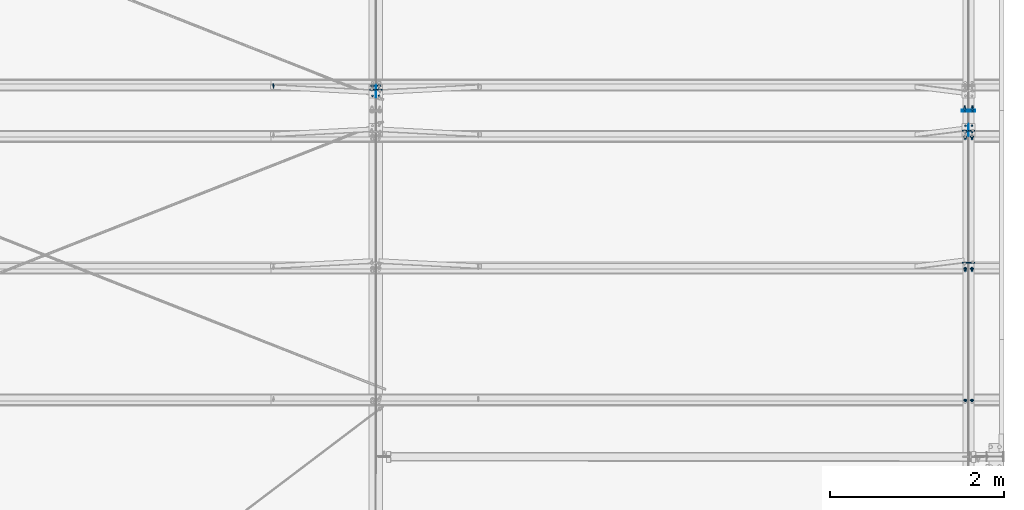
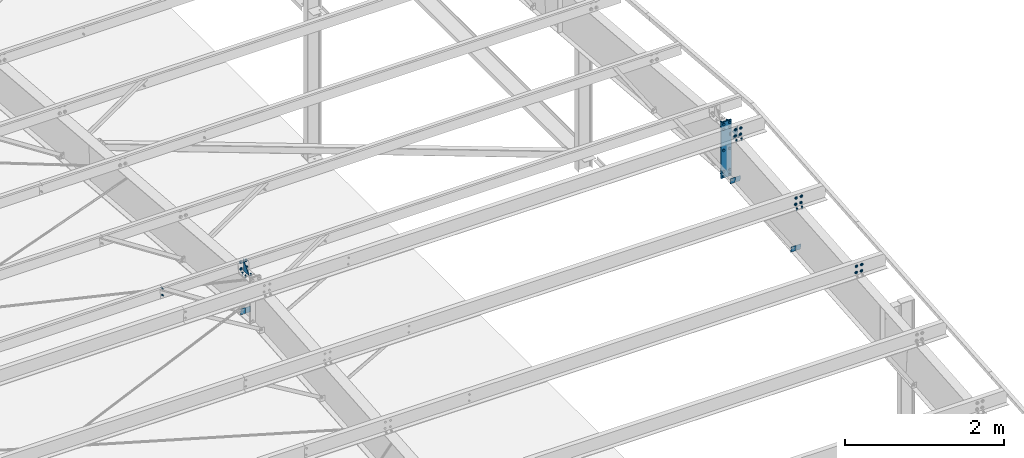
# One storey, part 109 of 185: 16 mechanical fasteners, 10 discrete accessories, 10 elements without a shape of their own.
"""IFC2X3 building model written with IfcOpenShell, lengths in millimetres."""

import ifcopenshell
import ifcopenshell.guid

model = None  # the IFC model being written
_history = None  # IfcOwnerHistory: only IFC2X3 demands one
_inside = {}  # id of a spatial element -> (the spatial element, [elements in it])
_under = {}  # id of a project, library or spatial element -> (it, [spatial elements below it])
_declared = {}  # id of a project -> (the project, [libraries it declares])
_typed = {}  # id of a type object -> (the type object, [elements of that type])
_made_of = {}  # id of a material, layer set ... -> (it, [elements and type objects made of it])


def new_model(schema):
    """Start an empty IFC model of exactly this schema.

    Asked for "IFC4X3", IfcOpenShell would pick the latest addendum, in which some entities
    have other attributes; the version numbers below select the first issue.
    IFC2X3 requires an IfcOwnerHistory on every rooted entity: one is made here for all.
    """
    global model, _history
    if schema == "IFC4X3":
        model = ifcopenshell.file(schema_version=(4, 3, 0, 0))
    else:
        model = ifcopenshell.file(schema=schema)
    _inside.clear()
    _under.clear()
    _declared.clear()
    _typed.clear()
    _made_of.clear()
    _history = None
    if model.schema == "IFC2X3":
        org = make("IfcOrganization", Name="unknown")
        user = make(
            "IfcPersonAndOrganization",
            ThePerson=make("IfcPerson", FamilyName="unknown"),
            TheOrganization=org,
        )
        app = make(
            "IfcApplication",
            ApplicationDeveloper=org,
            Version="unknown",
            ApplicationFullName="unknown",
            ApplicationIdentifier="unknown",
        )
        _history = make(
            "IfcOwnerHistory",
            OwningUser=user,
            OwningApplication=app,
            ChangeAction="ADDED",
            CreationDate=0,
        )
    return model


def make(cls, **values):
    """One entity of the class cls with the attributes given. An attribute that is None is left unset."""
    return model.create_entity(
        cls, **{name: value for name, value in values.items() if value is not None}
    )


def rooted(cls, **values):
    """An entity with a GlobalId (a new one), such as an element, a storey or a relation."""
    return make(cls, GlobalId=ifcopenshell.guid.new(), OwnerHistory=_history, **values)


def si_unit(unit_type, name, prefix=None):
    """IfcSIUnit, for example si_unit("LENGTHUNIT", "METRE", prefix="MILLI")."""
    return make("IfcSIUnit", UnitType=unit_type, Prefix=prefix, Name=name)


def assignment(units):
    """IfcUnitAssignment: the units of a project."""
    return None if units is None else make("IfcUnitAssignment", Units=units)


def point(xyz):
    """IfcCartesianPoint."""
    return None if xyz is None else make("IfcCartesianPoint", Coordinates=xyz)


def direction(xyz):
    """IfcDirection."""
    return None if xyz is None else make("IfcDirection", DirectionRatios=xyz)


def frame(location, z_axis=None, x_axis=None):
    """IfcAxis2Placement3D, a coordinate frame: its origin and axes. An axis left out is left unset."""
    return make(
        "IfcAxis2Placement3D",
        Location=point(location),
        Axis=direction(z_axis),
        RefDirection=direction(x_axis),
    )


def frame_2d(location, x_axis=None):
    """IfcAxis2Placement2D, a coordinate frame in the plane: its origin and x axis."""
    return make(
        "IfcAxis2Placement2D", Location=point(location), RefDirection=direction(x_axis)
    )


def origin_with_axes():
    """The frame at (0, 0, 0) with the z axis (0, 0, 1) and the x axis (1, 0, 0) written out."""
    return frame((0.0, 0.0, 0.0), z_axis=(0.0, 0.0, 1.0), x_axis=(1.0, 0.0, 0.0))


def origin_2d_with_axis():
    """The frame at (0, 0) in the plane with the x axis (1, 0) written out."""
    return frame_2d((0.0, 0.0), x_axis=(1.0, 0.0))


def place(relative_to, where):
    """IfcLocalPlacement: puts the frame where relative to a parent placement (None: the world)."""
    return make(
        "IfcLocalPlacement", PlacementRelTo=relative_to, RelativePlacement=where
    )


def context(
    kind, dimensions, precision=None, world=None, true_north=None, identifier=None
):
    """IfcGeometricRepresentationContext, for example the 3D "Model" context."""
    return make(
        "IfcGeometricRepresentationContext",
        ContextIdentifier=identifier,
        ContextType=kind,
        CoordinateSpaceDimension=dimensions,
        Precision=precision,
        WorldCoordinateSystem=world,
        TrueNorth=true_north,
    )


def subcontext(parent, identifier, kind, view, scale=None):
    """IfcGeometricRepresentationSubContext, for example "Body" below "Model"."""
    return make(
        "IfcGeometricRepresentationSubContext",
        ContextIdentifier=identifier,
        ContextType=kind,
        ParentContext=parent,
        TargetScale=scale,
        TargetView=view,
    )


def project(units=None, contexts=None):
    """IfcProject with its units and contexts."""
    return rooted(
        "IfcProject",
        Name="project",
        RepresentationContexts=contexts,
        UnitsInContext=assignment(units),
    )


def spatial(cls, under=None, at=None, **own):
    """A site, building, storey or space (cls), placed at a placement, below another one or the project."""
    s = rooted(cls, ObjectPlacement=at, **own)
    if under is not None:
        _under.setdefault(under.id(), (under, []))[1].append(s)
    return s


def polyline(points):
    """IfcPolyline through the points."""
    return make("IfcPolyline", Points=[point(p) for p in points])


def profile(cls, at=None, kind="AREA", **sizes):
    """A parametric profile (cls). Its sizes go by their IFC names, for example OverallWidth=200.0."""
    return make(cls, ProfileType=kind, Position=at, **sizes)


def rectangle(**sizes):
    """IfcRectangleProfileDef."""
    return profile("IfcRectangleProfileDef", **sizes)


def circle(**sizes):
    """IfcCircleProfileDef."""
    return profile("IfcCircleProfileDef", **sizes)


def outline(outer, holes=None, kind="AREA"):
    """IfcArbitraryClosedProfileDef: a profile drawn as a closed curve; with holes, ...WithVoids."""
    if holes is None:
        return make("IfcArbitraryClosedProfileDef", ProfileType=kind, OuterCurve=outer)
    return make(
        "IfcArbitraryProfileDefWithVoids",
        ProfileType=kind,
        OuterCurve=outer,
        InnerCurves=holes,
    )


def extrude(swept, where, along, depth):
    """IfcExtrudedAreaSolid: the profile swept, set in the frame where, extruded along a direction by depth."""
    return make(
        "IfcExtrudedAreaSolid",
        SweptArea=swept,
        Position=where,
        ExtrudedDirection=direction(along),
        Depth=depth,
    )


def shape(context_of_items, identifier, shape_type, items):
    """IfcShapeRepresentation: the items that make up one representation, for example the "Body"."""
    return make(
        "IfcShapeRepresentation",
        ContextOfItems=context_of_items,
        RepresentationIdentifier=identifier,
        RepresentationType=shape_type,
        Items=items,
    )


def source(mapping_origin, context_of_items, identifier, shape_type, items):
    """IfcRepresentationMap: a shape defined once, which mapped items show again and again."""
    return make(
        "IfcRepresentationMap",
        MappingOrigin=mapping_origin,
        MappedRepresentation=shape(context_of_items, identifier, shape_type, items),
    )


def transform(
    local_origin,
    x_axis=None,
    y_axis=None,
    z_axis=None,
    scale=None,
    scale2=None,
    scale3=None,
    uniform=True,
):
    """IfcCartesianTransformationOperator3D, or its non-uniform kind. x_axis, y_axis, z_axis: its Axis1, 2, 3."""
    if uniform:
        return make(
            "IfcCartesianTransformationOperator3D",
            Axis1=direction(x_axis),
            Axis2=direction(y_axis),
            LocalOrigin=point(local_origin),
            Scale=scale,
            Axis3=direction(z_axis),
        )
    return make(
        "IfcCartesianTransformationOperator3DnonUniform",
        Axis1=direction(x_axis),
        Axis2=direction(y_axis),
        LocalOrigin=point(local_origin),
        Scale=scale,
        Axis3=direction(z_axis),
        Scale2=scale2,
        Scale3=scale3,
    )


def mapped(mapping_source, mapping_target):
    """IfcMappedItem: shows the shape of a source again, moved by a transform."""
    return make(
        "IfcMappedItem", MappingSource=mapping_source, MappingTarget=mapping_target
    )


def material(Name=None, Category=None):
    """IfcMaterial."""
    return make("IfcMaterial", Name=Name, Category=Category)


def made_of(thing, what):
    """Note that an element or type object is made of a material, layer set ...; save() writes the relation."""
    if what is not None:
        _made_of.setdefault(what.id(), (what, []))[1].append(thing)
    return thing


def type_object(cls, material=None, **own):
    """A type object (cls), such as IfcWallType, which elements share."""
    return made_of(rooted(cls, **own), material)


def element(
    cls,
    number,
    at=None,
    inside=None,
    cuts=None,
    type_object=None,
    material=None,
    context=None,
    identifier="Body",
    shape_type=None,
    held_by="IfcProductDefinitionShape",
    body=None,
    shapes=None,
    **own,
):
    """One element of the class cls, such as IfcWall. Its Tag is "e" and its number.

    at: its placement. inside: the storey or other place that contains it. cuts: it is an
    opening in that element (IfcRelVoidsElement). A single representation is given by context,
    identifier, shape_type and body (its items); several are given by shapes. held_by: the class
    of the entity that holds the representations. save() writes the other relations.
    """
    e = rooted(cls, Tag="e%d" % number, ObjectPlacement=at, **own)
    if body is not None:
        shapes = [shape(context, identifier, shape_type, body)]
    if shapes is not None:
        e.Representation = make(held_by, Representations=shapes)
    if inside is not None:
        _inside.setdefault(inside.id(), (inside, []))[1].append(e)
    if cuts is not None:
        rooted(
            "IfcRelVoidsElement", RelatingBuildingElement=cuts, RelatedOpeningElement=e
        )
    if type_object is not None:
        _typed.setdefault(type_object.id(), (type_object, []))[1].append(e)
    return made_of(e, material)


def aggregate(whole, parts):
    """IfcRelAggregates: a whole, such as a stair, and the parts it consists of."""
    return rooted("IfcRelAggregates", RelatingObject=whole, RelatedObjects=parts)


def save(model, path):
    """Write the relations noted so far, then the file.

    IfcRelAggregates (storeys below a building ...), IfcRelContainedInSpatialStructure (elements
    in a storey), IfcRelDefinesByType, IfcRelAssociatesMaterial and IfcRelDeclares: one each for
    every whole, place, type object, material and project.
    """
    for whole, parts in _under.values():
        aggregate(whole, parts)
    for where, things in _inside.values():
        rooted(
            "IfcRelContainedInSpatialStructure",
            RelatedElements=things,
            RelatingStructure=where,
        )
    for kind, things in _typed.values():
        rooted("IfcRelDefinesByType", RelatedObjects=things, RelatingType=kind)
    for what, things in _made_of.values():
        rooted("IfcRelAssociatesMaterial", RelatedObjects=things, RelatingMaterial=what)
    for by, libraries in _declared.values():
        rooted("IfcRelDeclares", RelatingContext=by, RelatedDefinitions=libraries)
    model.write(path)


model = new_model("IFC2X3")

# Units and contexts
model_context = context("Model", 3, precision=1e-05, world=origin_with_axes())
body_context = subcontext(model_context, "Body", "Model", "MODEL_VIEW")
ifc_project = project(units=[si_unit("LENGTHUNIT", "METRE", prefix="MILLI"), si_unit("AREAUNIT", "SQUARE_METRE"), si_unit("VOLUMEUNIT", "CUBIC_METRE"), si_unit("MASSUNIT", "GRAM", prefix="KILO"), si_unit("TIMEUNIT", "SECOND"), si_unit("PLANEANGLEUNIT", "RADIAN"), si_unit("SOLIDANGLEUNIT", "STERADIAN"), si_unit("THERMODYNAMICTEMPERATUREUNIT", "DEGREE_CELSIUS"), si_unit("LUMINOUSINTENSITYUNIT", "LUMEN")], contexts=[model_context])

# Site, building, storey
site_placement = place(None, origin_with_axes())
site = spatial("IfcSite", under=ifc_project, at=site_placement, Name="Undefined", CompositionType="ELEMENT")
building_placement = place(site_placement, origin_with_axes())
building = spatial("IfcBuilding", under=site, at=building_placement, Name="Undefined", CompositionType="ELEMENT")
storey_placement = place(building_placement, origin_with_axes())
storey = spatial("IfcBuildingStorey", under=building, at=storey_placement, Name="Undefined", CompositionType="ELEMENT", Elevation=0.0)

# Assembly, mechanical fasteners
assembly_1_placement = place(storey_placement, origin_with_axes())
assembly_1 = element("IfcElementAssembly", 1, at=assembly_1_placement, inside=storey, Name="Steel Assembly", AssemblyPlace="NOTDEFINED", PredefinedType="RIGID_FRAME")
ifc_material_1 = material(Name="Undefined")
discrete_accessory_type_1 = type_object("IfcDiscreteAccessoryType", Name="Bolt assembly")
shared_shape_1 = source(origin_with_axes(), body_context, "Body", "SweptSolid", [
    extrude(circle(Radius=7.14374971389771, at=origin_2d_with_axis()), frame((0.0, -1.59000001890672, 0.0), z_axis=(0.0, 1.0, 0.0), x_axis=(1.0, 0.0, 0.0)), (0.0, 0.0, 1.0), 3.3),
    extrude(circle(Radius=13.4937496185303, at=origin_2d_with_axis()), frame((0.0, -5.5587500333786, 0.0), z_axis=(0.0, 1.0, 0.0), x_axis=(1.0, 0.0, 0.0)), (0.0, 0.0, 1.0), 4.0),
    extrude(circle(Radius=22.2250003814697, at=origin_2d_with_axis()), frame((0.0, 1.5900000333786, 0.0), z_axis=(0.0, 1.0, 0.0), x_axis=(1.0, 0.0, 0.0)), (0.0, 0.0, 1.0), 7.9),
    extrude(outline(polyline([(12.8316099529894, 0.0), (6.4158049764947, 11.1125001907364), (-6.4158049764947, 11.1125001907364), (-12.8316099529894, 0.0), (-6.4158049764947, -11.1125001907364), (6.4158049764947, -11.1125001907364), (12.8316099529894, 0.0)])), frame((0.0, 9.5275000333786, 0.0), z_axis=(0.0, 1.0, 0.0), x_axis=(1.0, 0.0, 0.0)), (0.0, 0.0, 1.0), 12.3),
])
mechanical_fastener_1_placement = place(assembly_1_placement, frame((44513.5, 12665.0005165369, 7100.44062814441), z_axis=(-1.0, 0.0, 0.0), x_axis=(0.0, 0.0830454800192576, -0.996545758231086)))
mechanical_fastener_1 = element("IfcMechanicalFastener", 2, at=mechanical_fastener_1_placement, type_object=discrete_accessory_type_1, material=ifc_material_1, Name="Bolt assembly", NominalDiameter=12.6999998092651, NominalLength=38.0999984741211, context=body_context, shape_type="MappedRepresentation", body=[
    mapped(shared_shape_1, transform((0.0, 0.0, 0.0))),
    mapped(shared_shape_1, transform((101.599998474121, 0.0, 0.0))),
])
mechanical_fastener_2_placement = place(assembly_1_placement, frame((44589.7, 12665.0005165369, 7100.44062814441), z_axis=(-1.0, 0.0, 0.0), x_axis=(0.0, 0.0830454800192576, -0.996545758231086)))
mechanical_fastener_2 = element("IfcMechanicalFastener", 3, at=mechanical_fastener_2_placement, type_object=discrete_accessory_type_1, material=ifc_material_1, Name="Bolt assembly", NominalDiameter=12.6999998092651, NominalLength=38.0999984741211, context=body_context, shape_type="MappedRepresentation", body=[
    mapped(shared_shape_1, transform((0.0, 0.0, 0.0))),
    mapped(shared_shape_1, transform((101.599998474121, 0.0, 0.0))),
])
aggregate(assembly_1, [mechanical_fastener_1, mechanical_fastener_2])

assembly_2_placement = place(storey_placement, origin_with_axes())
assembly_2 = element("IfcElementAssembly", 4, at=assembly_2_placement, inside=storey, Name="Steel Assembly", AssemblyPlace="NOTDEFINED", PredefinedType="RIGID_FRAME")
mechanical_fastener_3_placement = place(assembly_2_placement, frame((44513.5, 14183.73625208, 7227.00193969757), z_axis=(-1.0, 0.0, 0.0), x_axis=(0.0, 0.0830454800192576, -0.996545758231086)))
mechanical_fastener_3 = element("IfcMechanicalFastener", 5, at=mechanical_fastener_3_placement, type_object=discrete_accessory_type_1, material=ifc_material_1, Name="Bolt assembly", NominalDiameter=12.6999998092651, NominalLength=38.0999984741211, context=body_context, shape_type="MappedRepresentation", body=[
    mapped(shared_shape_1, transform((0.0, 0.0, 0.0))),
    mapped(shared_shape_1, transform((101.599998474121, 0.0, 0.0))),
])
mechanical_fastener_4_placement = place(assembly_2_placement, frame((44589.7, 14183.73625208, 7227.00193969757), z_axis=(-1.0, 0.0, 0.0), x_axis=(0.0, 0.0830454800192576, -0.996545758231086)))
mechanical_fastener_4 = element("IfcMechanicalFastener", 6, at=mechanical_fastener_4_placement, type_object=discrete_accessory_type_1, material=ifc_material_1, Name="Bolt assembly", NominalDiameter=12.6999998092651, NominalLength=38.0999984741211, context=body_context, shape_type="MappedRepresentation", body=[
    mapped(shared_shape_1, transform((0.0, 0.0, 0.0))),
    mapped(shared_shape_1, transform((101.599998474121, 0.0, 0.0))),
])

assembly_3_placement = place(storey_placement, origin_with_axes())
assembly_3 = element("IfcElementAssembly", 7, at=assembly_3_placement, inside=storey, Name="Steel Assembly", AssemblyPlace="NOTDEFINED", PredefinedType="RIGID_FRAME")
mechanical_fastener_5_placement = place(assembly_3_placement, frame((44513.5, 15702.4719876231, 7353.56325125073), z_axis=(-1.0, 0.0, 0.0), x_axis=(0.0, 0.0830454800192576, -0.996545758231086)))
mechanical_fastener_5 = element("IfcMechanicalFastener", 8, at=mechanical_fastener_5_placement, type_object=discrete_accessory_type_1, material=ifc_material_1, Name="Bolt assembly", NominalDiameter=12.6999998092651, NominalLength=38.0999984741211, context=body_context, shape_type="MappedRepresentation", body=[
    mapped(shared_shape_1, transform((0.0, 0.0, 0.0))),
    mapped(shared_shape_1, transform((101.599998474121, 0.0, 0.0))),
])
mechanical_fastener_6_placement = place(assembly_3_placement, frame((44589.7, 15702.4719876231, 7353.56325125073), z_axis=(-1.0, 0.0, 0.0), x_axis=(0.0, 0.0830454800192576, -0.996545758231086)))
mechanical_fastener_6 = element("IfcMechanicalFastener", 9, at=mechanical_fastener_6_placement, type_object=discrete_accessory_type_1, material=ifc_material_1, Name="Bolt assembly", NominalDiameter=12.6999998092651, NominalLength=38.0999984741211, context=body_context, shape_type="MappedRepresentation", body=[
    mapped(shared_shape_1, transform((0.0, 0.0, 0.0))),
    mapped(shared_shape_1, transform((101.599998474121, 0.0, 0.0))),
])

# Assembly, mechanical fastener
assembly_4_placement = place(storey_placement, origin_with_axes())
assembly_4 = element("IfcElementAssembly", 10, at=assembly_4_placement, inside=storey, Name="Steel Assembly", AssemblyPlace="NOTDEFINED", PredefinedType="RIGID_FRAME")
mechanical_fastener_7_placement = place(assembly_4_placement, frame((37680.9, 16301.5280123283, 7353.56325126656), z_axis=(-1.0, 0.0, 0.0), x_axis=(0.0, -0.0830454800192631, -0.996545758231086)))
mechanical_fastener_7 = element("IfcMechanicalFastener", 11, at=mechanical_fastener_7_placement, type_object=discrete_accessory_type_1, material=ifc_material_1, Name="Bolt assembly", NominalDiameter=12.6999998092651, NominalLength=38.0999984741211, context=body_context, shape_type="MappedRepresentation", body=[
    mapped(shared_shape_1, transform((0.0, 0.0, 0.0))),
    mapped(shared_shape_1, transform((101.599998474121, 0.0, 0.0))),
])
aggregate(assembly_4, [mechanical_fastener_7])

assembly_5_placement = place(storey_placement, origin_with_axes())
assembly_5 = element("IfcElementAssembly", 12, at=assembly_5_placement, inside=storey, Name="Steel Assembly", AssemblyPlace="NOTDEFINED", PredefinedType="RIGID_FRAME")
mechanical_fastener_8_placement = place(assembly_5_placement, frame((37757.1, 16301.5280123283, 7353.56325126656), z_axis=(-1.0, 0.0, 0.0), x_axis=(0.0, -0.0830454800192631, -0.996545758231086)))
mechanical_fastener_8 = element("IfcMechanicalFastener", 13, at=mechanical_fastener_8_placement, type_object=discrete_accessory_type_1, material=ifc_material_1, Name="Bolt assembly", NominalDiameter=12.6999998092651, NominalLength=38.0999984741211, context=body_context, shape_type="MappedRepresentation", body=[
    mapped(shared_shape_1, transform((0.0, 0.0, 0.0))),
    mapped(shared_shape_1, transform((101.599998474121, 0.0, 0.0))),
])

# Assembly, discrete accessory
assembly_6_placement = place(storey_placement, origin_with_axes())
assembly_6 = element("IfcElementAssembly", 14, at=assembly_6_placement, inside=storey, Name="Steel Assembly", AssemblyPlace="NOTDEFINED", PredefinedType="RIGID_FRAME")
ifc_material_2 = material(Name="STEEL/55")
discrete_accessory_type_2 = type_object("IfcDiscreteAccessoryType", Name="PLATE")
discrete_accessory_1_placement = place(assembly_6_placement, frame((44551.6, 15853.8182223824, 7219.61919679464), z_axis=(-1.0, 0.0, 0.0), x_axis=(0.0, -0.996545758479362, -0.0830454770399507)))
discrete_accessory_1 = element("IfcDiscreteAccessory", 15, at=discrete_accessory_1_placement, type_object=discrete_accessory_type_2, material=ifc_material_2, Name="PLATE", ObjectType="FL1/4\"X5 1/4\"", context=body_context, shape_type="SweptSolid", body=[
    extrude(outline(polyline([(0.0, 0.0), (133.350006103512, 3.70164343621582e-10), (133.350006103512, 190.500000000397), (0.0, 0.0)])), frame((0.0, -9.09494701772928e-13, -3.2), z_axis=(0.0, 0.0, 1.0), x_axis=(1.0, 0.0, 0.0)), (0.0, 0.0, 1.0), 6.4),
])

assembly_7_placement = place(storey_placement, origin_with_axes())
assembly_7 = element("IfcElementAssembly", 16, at=assembly_7_placement, inside=storey, Name="Steel Assembly", AssemblyPlace="NOTDEFINED", PredefinedType="RIGID_FRAME")
discrete_accessory_2_placement = place(assembly_7_placement, frame((37719.0, 16150.1817775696, 7219.6191968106), z_axis=(1.0, 0.0, 0.0), x_axis=(0.0, 0.996545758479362, -0.0830454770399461)))
discrete_accessory_2 = element("IfcDiscreteAccessory", 17, at=discrete_accessory_2_placement, type_object=discrete_accessory_type_2, material=ifc_material_2, Name="PLATE", ObjectType="FL1/4\"X5 1/4\"", context=body_context, shape_type="SweptSolid", body=[
    extrude(outline(polyline([(0.0, 0.0), (133.350006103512, 3.70164343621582e-10), (133.350006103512, 190.500000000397), (0.0, 0.0)])), frame((0.0, -9.09494701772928e-13, -3.2), z_axis=(0.0, 0.0, 1.0), x_axis=(1.0, 0.0, 0.0)), (0.0, 0.0, 1.0), 6.4),
])

# Assembly, discrete accessories
assembly_8_placement = place(storey_placement, origin_with_axes())
assembly_8 = element("IfcElementAssembly", 18, at=assembly_8_placement, inside=storey, Name="Steel Assembly", AssemblyPlace="NOTDEFINED", PredefinedType="RIGID_FRAME")
discrete_accessory_type_3 = type_object("IfcDiscreteAccessoryType", Name="FLANGE BRACE FLIP")
discrete_accessory_3_placement = place(assembly_8_placement, frame((44549.89185, 15769.4557659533, 6529.19086765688), z_axis=(0.0, 0.0830454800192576, -0.996545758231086), x_axis=(-1.0, 0.0, 0.0)))
discrete_accessory_3 = element("IfcDiscreteAccessory", 19, at=discrete_accessory_3_placement, type_object=discrete_accessory_type_3, material=ifc_material_2, Name="FLANGE BRACE FLIP", ObjectType="PL1/8\"X2 3/4\"", context=body_context, shape_type="SweptSolid", body=[
    extrude(rectangle(XDim=3.416, YDim=85.725, at=origin_2d_with_axis()), frame((69.8499999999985, 0.0, 0.0), z_axis=(-1.0, 0.0, 0.0), x_axis=(0.0, -1.0, 0.0)), (0.0, 0.0, 1.0), 69.8),
])
discrete_accessory_4_placement = place(assembly_8_placement, frame((44553.30815, 15769.4557659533, 6529.19086765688), z_axis=(0.0, 0.0830454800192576, -0.996545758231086), x_axis=(1.0, 0.0, 0.0)))
discrete_accessory_4 = element("IfcDiscreteAccessory", 20, at=discrete_accessory_4_placement, type_object=discrete_accessory_type_3, material=ifc_material_2, Name="FLANGE BRACE FLIP", ObjectType="PL1/8\"X2 3/4\"", context=body_context, shape_type="SweptSolid", body=[
    extrude(rectangle(XDim=3.416, YDim=85.725, at=origin_2d_with_axis()), frame((69.8499999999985, 0.0, 0.0), z_axis=(-1.0, 0.0, 0.0), x_axis=(0.0, -1.0, 0.0)), (0.0, 0.0, 1.0), 69.9),
])
discrete_accessory_5_placement = place(assembly_8_placement, frame((44549.89185, 14250.7200303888, 6402.62955636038), z_axis=(0.0, 0.0830454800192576, -0.996545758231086), x_axis=(-1.0, 0.0, 0.0)))
discrete_accessory_5 = element("IfcDiscreteAccessory", 21, at=discrete_accessory_5_placement, type_object=discrete_accessory_type_3, material=ifc_material_2, Name="FLANGE BRACE FLIP", ObjectType="PL1/8\"X2 3/4\"", context=body_context, shape_type="SweptSolid", body=[
    extrude(rectangle(XDim=3.416, YDim=85.725, at=origin_2d_with_axis()), frame((69.8499999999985, 0.0, 0.0), z_axis=(-1.0, 0.0, 0.0), x_axis=(0.0, -1.0, 0.0)), (0.0, 0.0, 1.0), 69.8),
])
discrete_accessory_6_placement = place(assembly_8_placement, frame((44553.30815, 14250.7200303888, 6402.62955636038), z_axis=(0.0, 0.0830454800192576, -0.996545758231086), x_axis=(1.0, 0.0, 0.0)))
discrete_accessory_6 = element("IfcDiscreteAccessory", 22, at=discrete_accessory_6_placement, type_object=discrete_accessory_type_3, material=ifc_material_2, Name="FLANGE BRACE FLIP", ObjectType="PL1/8\"X2 3/4\"", context=body_context, shape_type="SweptSolid", body=[
    extrude(rectangle(XDim=3.416, YDim=85.725, at=origin_2d_with_axis()), frame((69.8499999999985, 0.0, 0.0), z_axis=(-1.0, 0.0, 0.0), x_axis=(0.0, -1.0, 0.0)), (0.0, 0.0, 1.0), 69.8),
])

assembly_9_placement = place(storey_placement, origin_with_axes())
assembly_9 = element("IfcElementAssembly", 23, at=assembly_9_placement, inside=storey, Name="Steel Assembly", AssemblyPlace="NOTDEFINED", PredefinedType="RIGID_FRAME")
discrete_accessory_7_placement = place(assembly_9_placement, frame((37717.29185, 16242.8487656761, 6628.84524779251), z_axis=(0.0, 0.0830454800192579, 0.996545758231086), x_axis=(-1.0, 0.0, 0.0)))
discrete_accessory_7 = element("IfcDiscreteAccessory", 24, at=discrete_accessory_7_placement, type_object=discrete_accessory_type_3, material=ifc_material_2, Name="FLANGE BRACE FLIP", ObjectType="PL1/8\"X2 3/4\"", context=body_context, shape_type="SweptSolid", body=[
    extrude(rectangle(XDim=3.416, YDim=85.725, at=origin_2d_with_axis()), frame((69.8499999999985, 0.0, 0.0), z_axis=(-1.0, 0.0, 0.0), x_axis=(0.0, -1.0, 0.0)), (0.0, 0.0, 1.0), 69.8),
])
discrete_accessory_8_placement = place(assembly_9_placement, frame((37720.70815, 16242.8487656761, 6628.84524779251), z_axis=(0.0, 0.0830454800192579, 0.996545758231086), x_axis=(1.0, 0.0, 0.0)))
discrete_accessory_8 = element("IfcDiscreteAccessory", 25, at=discrete_accessory_8_placement, type_object=discrete_accessory_type_3, material=ifc_material_2, Name="FLANGE BRACE FLIP", ObjectType="PL1/8\"X2 3/4\"", context=body_context, shape_type="SweptSolid", body=[
    extrude(rectangle(XDim=3.416, YDim=85.725, at=origin_2d_with_axis()), frame((69.8499999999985, 0.0, 0.0), z_axis=(-1.0, 0.0, 0.0), x_axis=(0.0, -1.0, 0.0)), (0.0, 0.0, 1.0), 69.8),
])
aggregate(assembly_9, [discrete_accessory_7, discrete_accessory_8])

# Mechanical fastener
shared_shape_2 = source(origin_with_axes(), body_context, "Body", "SweptSolid", [
    extrude(circle(Radius=7.14374971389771, at=origin_2d_with_axis()), frame((0.0, -1.69000003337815, 0.0), z_axis=(0.0, 1.0, 0.0), x_axis=(1.0, 0.0, 0.0)), (0.0, 0.0, 1.0), 3.3),
    extrude(circle(Radius=7.14374971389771, at=origin_2d_with_axis()), frame((0.0, -1.4900000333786, 0.0), z_axis=(0.0, 1.0, 0.0), x_axis=(1.0, 0.0, 0.0)), (0.0, 0.0, 1.0), 3.2),
    extrude(outline(polyline([(10.9985221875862, 0.0), (5.4992610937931, 9.52499961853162), (-5.4992610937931, 9.52499961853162), (-10.9985221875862, 0.0), (-5.4992610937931, -9.52499961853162), (5.4992610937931, -9.52499961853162), (10.9985221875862, 0.0)])), frame((0.0, -11.1149996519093, 0.0), z_axis=(0.0, 1.0, 0.0), x_axis=(1.0, 0.0, 0.0)), (0.0, 0.0, 1.0), 9.5),
    extrude(circle(Radius=6.34999990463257, at=origin_2d_with_axis()), frame((0.0, -1.59000001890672, 0.0), z_axis=(0.0, 1.0, 0.0), x_axis=(1.0, 0.0, 0.0)), (0.0, 0.0, 1.0), 38.1),
    extrude(outline(polyline([(12.8316099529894, 0.0), (6.4158049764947, 11.1125001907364), (-6.4158049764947, 11.1125001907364), (-12.8316099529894, 0.0), (-6.4158049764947, -11.1125001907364), (6.4158049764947, -11.1125001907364), (12.8316099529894, 0.0)])), frame((0.0, 1.5900000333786, 0.0), z_axis=(0.0, 1.0, 0.0), x_axis=(1.0, 0.0, 0.0)), (0.0, 0.0, 1.0), 12.3),
])
mechanical_fastener_9_placement = place(assembly_5_placement, frame((36537.9, 16301.5280123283, 7353.56325126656), z_axis=(-1.0, 0.0, 0.0), x_axis=(0.0, -0.0830454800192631, -0.996545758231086)))
mechanical_fastener_9 = element("IfcMechanicalFastener", 26, at=mechanical_fastener_9_placement, type_object=discrete_accessory_type_1, material=ifc_material_1, Name="Bolt assembly", NominalDiameter=12.6999998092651, NominalLength=38.0999984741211, context=body_context, shape_type="MappedRepresentation", body=[
    mapped(shared_shape_2, transform((0.0, 0.0, 0.0))),
    mapped(shared_shape_2, transform((101.599998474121, 0.0, 0.0))),
])

aggregate(assembly_5, [mechanical_fastener_8, mechanical_fastener_9])

shared_shape_3 = source(origin_with_axes(), body_context, "Body", "SweptSolid", [
    extrude(circle(Radius=7.14374971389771, at=origin_2d_with_axis()), frame((0.0, -0.0238014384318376, 0.0), z_axis=(0.0, 1.0, 0.0), x_axis=(1.0, 0.0, 0.0)), (0.0, 0.0, 1.0), 8.0),
    extrude(circle(Radius=7.14374971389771, at=origin_2d_with_axis()), frame((0.0, -6.24999999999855, 0.0), z_axis=(0.0, 1.0, 0.0), x_axis=(1.0, 0.0, 0.0)), (0.0, 0.0, 1.0), 6.4),
    extrude(outline(polyline([(10.9985221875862, 0.0), (5.4992610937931, 9.52499961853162), (-5.4992610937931, 9.52499961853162), (-10.9985221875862, 0.0), (-5.4992610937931, -9.52499961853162), (5.4992610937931, -9.52499961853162), (10.9985221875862, 0.0)])), frame((0.0, -15.8750000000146, 0.0), z_axis=(0.0, 1.0, 0.0), x_axis=(1.0, 0.0, 0.0)), (0.0, 0.0, 1.0), 9.5),
    extrude(circle(Radius=6.34999990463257, at=origin_2d_with_axis()), frame((0.0, -6.34999953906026, 0.0), z_axis=(0.0, 1.0, 0.0), x_axis=(1.0, 0.0, 0.0)), (0.0, 0.0, 1.0), 38.1),
    extrude(outline(polyline([(12.8316099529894, 0.0), (6.4158049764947, 11.1125001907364), (-6.4158049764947, 11.1125001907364), (-12.8316099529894, 0.0), (-6.4158049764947, -11.1125001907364), (6.4158049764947, -11.1125001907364), (12.8316099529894, 0.0)])), frame((0.0, 7.95019856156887, 0.0), z_axis=(0.0, 1.0, 0.0), x_axis=(1.0, 0.0, 0.0)), (0.0, 0.0, 1.0), 12.3),
])
mechanical_fastener_10_placement = place(assembly_7_placement, frame((37719.0, 16250.9034878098, 7204.85371049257), z_axis=(1.0, 0.0, 0.0), x_axis=(0.0, -0.996545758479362, 0.0830454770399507)))
mechanical_fastener_10 = element("IfcMechanicalFastener", 27, at=mechanical_fastener_10_placement, type_object=discrete_accessory_type_1, material=ifc_material_1, Name="Bolt assembly", NominalDiameter=12.6999998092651, NominalLength=38.0999984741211, context=body_context, shape_type="MappedRepresentation", body=[
    mapped(shared_shape_3, transform((0.0, 0.0, -38.0999984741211))),
    mapped(shared_shape_3, transform((76.1999969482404, -1.38243194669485e-10, -38.0999984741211))),
    mapped(shared_shape_3, transform((0.0, 0.0, 38.0999984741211))),
    mapped(shared_shape_3, transform((76.1999969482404, -1.38243194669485e-10, 38.0999984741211))),
])

aggregate(assembly_7, [mechanical_fastener_10, discrete_accessory_2])

shared_shape_4 = source(origin_with_axes(), body_context, "Body", "SweptSolid", [
    extrude(circle(Radius=10.3187494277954, at=origin_2d_with_axis()), frame((0.0, -0.1, 0.0), z_axis=(0.0, 1.0, 0.0), x_axis=(1.0, 0.0, 0.0)), (0.0, 0.0, 1.0), 9.6),
    extrude(circle(Radius=10.3187494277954, at=origin_2d_with_axis()), frame((0.0, -9.42500000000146, 0.0), z_axis=(0.0, 1.0, 0.0), x_axis=(1.0, 0.0, 0.0)), (0.0, 0.0, 1.0), 9.5),
    extrude(outline(polyline([(18.3308710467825, 0.0), (9.16543552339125, 15.8750000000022), (-9.16543552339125, 15.8750000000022), (-18.3308710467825, 0.0), (-9.16543552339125, -15.8750000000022), (9.16543552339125, -15.8750000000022), (18.3308710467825, 0.0)])), frame((0.0, -21.4312500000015, 0.0), z_axis=(0.0, 1.0, 0.0), x_axis=(1.0, 0.0, 0.0)), (0.0, 0.0, 1.0), 11.9),
    extrude(circle(Radius=9.52499961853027, at=origin_2d_with_axis()), frame((0.0, -9.52499961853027, 0.0), z_axis=(0.0, 1.0, 0.0), x_axis=(1.0, 0.0, 0.0)), (0.0, 0.0, 1.0), 69.8),
    extrude(circle(Radius=22.2250003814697, at=origin_2d_with_axis()), frame((0.0, 9.52499999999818, 0.0), z_axis=(0.0, 1.0, 0.0), x_axis=(1.0, 0.0, 0.0)), (0.0, 0.0, 1.0), 7.9),
    extrude(outline(polyline([(18.3308710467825, 0.0), (9.16543552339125, 15.8750000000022), (-9.16543552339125, 15.8750000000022), (-18.3308710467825, 0.0), (-9.16543552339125, -15.8750000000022), (9.16543552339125, -15.8750000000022), (18.3308710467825, 0.0)])), frame((0.0, 17.4624999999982, 0.0), z_axis=(0.0, 1.0, 0.0), x_axis=(1.0, 0.0, 0.0)), (0.0, 0.0, 1.0), 19.0),
])
mechanical_fastener_11_placement = place(assembly_8_placement, frame((44551.6, 16001.9999999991, 6862.03615600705), z_axis=(1.0, 0.0, 0.0), x_axis=(0.0, 0.0, -1.0)))
mechanical_fastener_11 = element("IfcMechanicalFastener", 28, at=mechanical_fastener_11_placement, type_object=discrete_accessory_type_1, material=ifc_material_1, Name="Bolt assembly", NominalDiameter=19.0499992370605, NominalLength=69.8499984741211, context=body_context, shape_type="MappedRepresentation", body=[
    mapped(shared_shape_4, transform((0.0, 0.0, -44.4500007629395))),
    mapped(shared_shape_4, transform((0.0, 0.0, 44.4500007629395))),
])

mechanical_fastener_12_placement = place(assembly_8_placement, frame((44551.6, 16001.9999999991, 6463.57365598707), z_axis=(-1.0, 0.0, 0.0), x_axis=(0.0, 0.0, 1.0)))
mechanical_fastener_12 = element("IfcMechanicalFastener", 29, at=mechanical_fastener_12_placement, type_object=discrete_accessory_type_1, material=ifc_material_1, Name="Bolt assembly", NominalDiameter=19.0499992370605, NominalLength=69.8499984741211, context=body_context, shape_type="MappedRepresentation", body=[
    mapped(shared_shape_4, transform((0.0, 0.0, -44.4500007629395))),
    mapped(shared_shape_4, transform((73.0250015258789, 0.0, -44.4500007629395))),
    mapped(shared_shape_4, transform((0.0, 0.0, 44.4500007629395))),
    mapped(shared_shape_4, transform((73.0250015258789, 0.0, 44.4500007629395))),
])

mechanical_fastener_13_placement = place(assembly_8_placement, frame((44551.6, 16001.9999999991, 7260.49865600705), z_axis=(1.0, 0.0, 0.0), x_axis=(0.0, 0.0, -1.0)))
mechanical_fastener_13 = element("IfcMechanicalFastener", 30, at=mechanical_fastener_13_placement, type_object=discrete_accessory_type_1, material=ifc_material_1, Name="Bolt assembly", NominalDiameter=19.0499992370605, NominalLength=69.8499984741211, context=body_context, shape_type="MappedRepresentation", body=[
    mapped(shared_shape_4, transform((0.0, 0.0, -44.4500007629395))),
    mapped(shared_shape_4, transform((73.0250015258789, 0.0, -44.4500007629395))),
    mapped(shared_shape_4, transform((0.0, 0.0, 44.4500007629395))),
    mapped(shared_shape_4, transform((73.0250015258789, 0.0, 44.4500007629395))),
])

shared_shape_5 = source(origin_with_axes(), body_context, "Body", "SweptSolid", [
    extrude(circle(Radius=7.14374971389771, at=origin_2d_with_axis()), frame((0.0, -0.1, 0.0), z_axis=(0.0, 1.0, 0.0), x_axis=(1.0, 0.0, 0.0)), (0.0, 0.0, 1.0), 6.5),
    extrude(circle(Radius=7.14374971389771, at=origin_2d_with_axis()), frame((0.0, -6.24999999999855, 0.0), z_axis=(0.0, 1.0, 0.0), x_axis=(1.0, 0.0, 0.0)), (0.0, 0.0, 1.0), 6.4),
    extrude(outline(polyline([(10.9985221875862, 0.0), (5.4992610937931, 9.52499961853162), (-5.4992610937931, 9.52499961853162), (-10.9985221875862, 0.0), (-5.4992610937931, -9.52499961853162), (5.4992610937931, -9.52499961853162), (10.9985221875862, 0.0)])), frame((0.0, -15.8750000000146, 0.0), z_axis=(0.0, 1.0, 0.0), x_axis=(1.0, 0.0, 0.0)), (0.0, 0.0, 1.0), 9.5),
    extrude(circle(Radius=6.34999990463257, at=origin_2d_with_axis()), frame((0.0, -6.34999953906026, 0.0), z_axis=(0.0, 1.0, 0.0), x_axis=(1.0, 0.0, 0.0)), (0.0, 0.0, 1.0), 38.1),
    extrude(outline(polyline([(12.8316099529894, 0.0), (6.4158049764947, 11.1125001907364), (-6.4158049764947, 11.1125001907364), (-12.8316099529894, 0.0), (-6.4158049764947, -11.1125001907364), (6.4158049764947, -11.1125001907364), (12.8316099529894, 0.0)])), frame((0.0, 6.35000000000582, 0.0), z_axis=(0.0, 1.0, 0.0), x_axis=(1.0, 0.0, 0.0)), (0.0, 0.0, 1.0), 12.3),
])
mechanical_fastener_14_placement = place(assembly_6_placement, frame((44551.6, 15753.0965121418, 7204.85371047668), z_axis=(-1.0, 0.0, 0.0), x_axis=(0.0, 0.996545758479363, 0.0830454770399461)))
mechanical_fastener_14 = element("IfcMechanicalFastener", 31, at=mechanical_fastener_14_placement, type_object=discrete_accessory_type_1, material=ifc_material_1, Name="Bolt assembly", NominalDiameter=12.6999998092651, NominalLength=38.0999984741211, context=body_context, shape_type="MappedRepresentation", body=[
    mapped(shared_shape_5, transform((0.0, 0.0, -38.0999984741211))),
    mapped(shared_shape_5, transform((76.1999969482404, -1.38243194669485e-10, -38.0999984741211))),
    mapped(shared_shape_5, transform((0.0, 0.0, 38.0999984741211))),
    mapped(shared_shape_5, transform((76.1999969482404, -1.38243194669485e-10, 38.0999984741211))),
])

aggregate(assembly_6, [mechanical_fastener_14, discrete_accessory_1])

shared_shape_6 = source(origin_with_axes(), body_context, "Body", "SweptSolid", [
    extrude(circle(Radius=7.14374971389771, at=origin_2d_with_axis()), frame((0.0, -0.1, 0.0), z_axis=(0.0, 1.0, 0.0), x_axis=(1.0, 0.0, 0.0)), (0.0, 0.0, 1.0), 6.5),
    extrude(circle(Radius=7.14374971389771, at=origin_2d_with_axis()), frame((0.0, -3.08000006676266, 0.0), z_axis=(0.0, 1.0, 0.0), x_axis=(1.0, 0.0, 0.0)), (0.0, 0.0, 1.0), 3.2),
    extrude(outline(polyline([(10.9985221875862, 0.0), (5.4992610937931, 9.52499961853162), (-5.4992610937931, 9.52499961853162), (-10.9985221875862, 0.0), (-5.4992610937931, -9.52499961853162), (5.4992610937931, -9.52499961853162), (10.9985221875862, 0.0)])), frame((0.0, -16.6737496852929, 0.0), z_axis=(0.0, 1.0, 0.0), x_axis=(1.0, 0.0, 0.0)), (0.0, 0.0, 1.0), 9.5),
    extrude(circle(Radius=6.34999990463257, at=origin_2d_with_axis()), frame((0.0, -7.14875006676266, 0.0), z_axis=(0.0, 1.0, 0.0), x_axis=(1.0, 0.0, 0.0)), (0.0, 0.0, 1.0), 38.1),
    extrude(circle(Radius=13.4937496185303, at=origin_2d_with_axis()), frame((0.0, -7.14875006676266, 0.0), z_axis=(0.0, 1.0, 0.0), x_axis=(1.0, 0.0, 0.0)), (0.0, 0.0, 1.0), 4.0),
    extrude(outline(polyline([(12.8316099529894, 0.0), (6.4158049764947, 11.1125001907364), (-6.4158049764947, 11.1125001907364), (-12.8316099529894, 0.0), (-6.4158049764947, -11.1125001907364), (6.4158049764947, -11.1125001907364), (12.8316099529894, 0.0)])), frame((0.0, 6.35000000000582, 0.0), z_axis=(0.0, 1.0, 0.0), x_axis=(1.0, 0.0, 0.0)), (0.0, 0.0, 1.0), 12.3),
])
mechanical_fastener_15_placement = place(assembly_2_placement, frame((44551.6, 14158.4239898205, 7071.9643333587), z_axis=(1.0, 0.0, 0.0), x_axis=(0.0, -0.996545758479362, -0.0830454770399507)))
mechanical_fastener_15 = element("IfcMechanicalFastener", 32, at=mechanical_fastener_15_placement, type_object=discrete_accessory_type_1, material=ifc_material_1, Name="Bolt assembly", NominalDiameter=12.6999998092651, NominalLength=38.0999984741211, context=body_context, shape_type="MappedRepresentation", body=[
    mapped(shared_shape_6, transform((0.0, 0.0, -38.0999984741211))),
    mapped(shared_shape_6, transform((0.0, 0.0, 38.0999984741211))),
])

aggregate(assembly_2, [mechanical_fastener_15, mechanical_fastener_3, mechanical_fastener_4])

mechanical_fastener_16_placement = place(assembly_3_placement, frame((44551.6, 15677.1597253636, 7198.52564491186), z_axis=(1.0, 0.0, 0.0), x_axis=(0.0, -0.996545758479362, -0.0830454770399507)))
mechanical_fastener_16 = element("IfcMechanicalFastener", 33, at=mechanical_fastener_16_placement, type_object=discrete_accessory_type_1, material=ifc_material_1, Name="Bolt assembly", NominalDiameter=12.6999998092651, NominalLength=38.0999984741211, context=body_context, shape_type="MappedRepresentation", body=[
    mapped(shared_shape_6, transform((0.0, 0.0, -38.0999984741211))),
    mapped(shared_shape_6, transform((0.0, 0.0, 38.0999984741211))),
])

aggregate(assembly_3, [mechanical_fastener_16, mechanical_fastener_5, mechanical_fastener_6])

# Assembly, discrete accessory
assembly_10_placement = place(storey_placement, origin_with_axes())
assembly_10 = element("IfcElementAssembly", 34, at=assembly_10_placement, inside=storey, Name="Steel Assembly", AssemblyPlace="NOTDEFINED", PredefinedType="RIGID_FRAME")
discrete_accessory_type_4 = type_object("IfcDiscreteAccessoryType", Name="Rafter Ridge Plate")
discrete_accessory_9_placement = place(assembly_10_placement, frame((44551.6, 16006.7625000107, 7292.24865641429), z_axis=(-1.0, 0.0, 0.0), x_axis=(0.0, 0.0, -1.0)))
discrete_accessory_9 = element("IfcDiscreteAccessory", 35, at=discrete_accessory_9_placement, type_object=discrete_accessory_type_4, material=ifc_material_2, Name="Rafter Ridge Plate", ObjectType="FL3/8\"X6\"", context=body_context, shape_type="SweptSolid", body=[
    extrude(rectangle(XDim=9.525, YDim=152.4, at=origin_2d_with_axis()), frame((860.425000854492, 0.0, 0.0), z_axis=(-1.0, 0.0, 0.0), x_axis=(0.0, -1.0, 0.0)), (0.0, 0.0, 1.0), 860.4),
])
aggregate(assembly_10, [discrete_accessory_9])

# Discrete accessory
discrete_accessory_10_placement = place(assembly_8_placement, frame((44551.6, 15997.2374999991, 7292.24865643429), z_axis=(1.0, 0.0, 0.0), x_axis=(0.0, 0.0, -1.0)))
discrete_accessory_10 = element("IfcDiscreteAccessory", 36, at=discrete_accessory_10_placement, type_object=discrete_accessory_type_4, material=ifc_material_2, Name="Rafter Ridge Plate", ObjectType="FL3/8\"X6\"", context=body_context, shape_type="SweptSolid", body=[
    extrude(rectangle(XDim=9.525, YDim=152.4, at=origin_2d_with_axis()), frame((860.425000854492, 0.0, 0.0), z_axis=(-1.0, 0.0, 0.0), x_axis=(0.0, -1.0, 0.0)), (0.0, 0.0, 1.0), 860.4),
])

aggregate(assembly_8, [mechanical_fastener_11, discrete_accessory_3, discrete_accessory_4, discrete_accessory_5, discrete_accessory_6, mechanical_fastener_12, mechanical_fastener_13, discrete_accessory_10])

save(model, "model.ifc")
